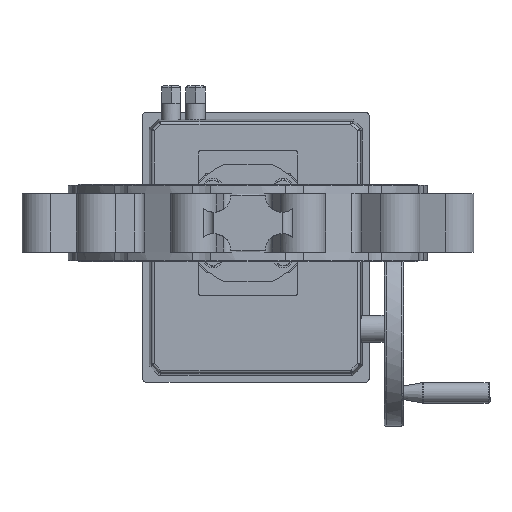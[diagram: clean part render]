
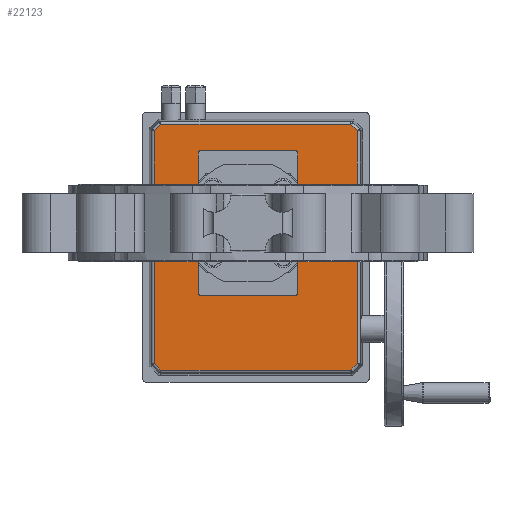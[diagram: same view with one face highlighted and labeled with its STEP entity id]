
A CAD part, front view. The second image highlights one B-rep face of the part: STEP entity #22123.
In plain terms, the highlighted planar face has unit normal (0, -1, 0).
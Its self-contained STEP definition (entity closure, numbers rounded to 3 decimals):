
#427 = CARTESIAN_POINT ( 'NONE',  ( -95.915, -75., 112.484 ) ) ;
#549 = ORIENTED_EDGE ( 'NONE', *, *, #19534, .T. ) ;
#619 = VERTEX_POINT ( 'NONE', #8543 ) ;
#915 = CARTESIAN_POINT ( 'NONE',  ( 144.715, -75., -96.484 ) ) ;
#1093 = LINE ( 'NONE', #10650, #17277 ) ;
#1154 = DIRECTION ( 'NONE',  ( -0.707, 0., 0.707 ) ) ;
#1164 = EDGE_CURVE ( 'NONE', #1862, #17783, #22917, .T. ) ;
#1186 = VERTEX_POINT ( 'NONE', #8536 ) ;
#1370 = CARTESIAN_POINT ( 'NONE',  ( 144.715, -75., 112.484 ) ) ;
#1519 = EDGE_CURVE ( 'NONE', #619, #24510, #1093, .T. ) ;
#1554 = VECTOR ( 'NONE', #23892, 1000. ) ;
#1862 = VERTEX_POINT ( 'NONE', #18922 ) ;
#2134 = VERTEX_POINT ( 'NONE', #11176 ) ;
#2167 = EDGE_CURVE ( 'NONE', #2134, #29530, #23021, .T. ) ;
#2236 = EDGE_CURVE ( 'NONE', #20205, #8529, #24107, .T. ) ;
#2943 = CARTESIAN_POINT ( 'NONE',  ( -94.715, -75., 112.484 ) ) ;
#2980 = LINE ( 'NONE', #10339, #6110 ) ;
#3023 = EDGE_CURVE ( 'NONE', #24510, #18092, #23604, .T. ) ;
#3339 = DIRECTION ( 'NONE',  ( 0.707, 0., 0.707 ) ) ;
#3799 = CARTESIAN_POINT ( 'NONE',  ( 128.6, -75., 128.6 ) ) ;
#3860 = CARTESIAN_POINT ( 'NONE',  ( -75., -75., 48. ) ) ;
#4183 = AXIS2_PLACEMENT_3D ( 'NONE', #25946, #13755, #10775 ) ;
#4338 = CARTESIAN_POINT ( 'NONE',  ( -72., -75., 48. ) ) ;
#4615 = VECTOR ( 'NONE', #19680, 1000. ) ;
#4659 = LINE ( 'NONE', #427, #1554 ) ;
#4754 = CARTESIAN_POINT ( 'NONE',  ( -101.484, -75., 105.715 ) ) ;
#5006 = DIRECTION ( 'NONE',  ( 0., 0., -1. ) ) ;
#5276 = CARTESIAN_POINT ( 'NONE',  ( -101.484, -75., -90.915 ) ) ;
#5318 = EDGE_LOOP ( 'NONE', ( #15625, #18328, #14341, #16789, #549, #14098, #13613, #23326 ) ) ;
#5830 = VERTEX_POINT ( 'NONE', #17710 ) ;
#5989 = CARTESIAN_POINT ( 'NONE',  ( 151.484, -75., -89.715 ) ) ;
#6025 = CARTESIAN_POINT ( 'NONE',  ( 75., -75., 0. ) ) ;
#6110 = VECTOR ( 'NONE', #12708, 1000. ) ;
#6204 = CIRCLE ( 'NONE', #4183, 3. ) ;
#7456 = LINE ( 'NONE', #27142, #30793 ) ;
#7612 = AXIS2_PLACEMENT_3D ( 'NONE', #4338, #13912, #12870 ) ;
#7750 = EDGE_CURVE ( 'NONE', #15002, #619, #26736, .T. ) ;
#8465 = LINE ( 'NONE', #11159, #16154 ) ;
#8529 = VERTEX_POINT ( 'NONE', #22394 ) ;
#8536 = CARTESIAN_POINT ( 'NONE',  ( 151.484, -75., 105.715 ) ) ;
#8543 = CARTESIAN_POINT ( 'NONE',  ( -101.484, -75., -89.715 ) ) ;
#8635 = CARTESIAN_POINT ( 'NONE',  ( 75., -75., -48. ) ) ;
#9616 = CIRCLE ( 'NONE', #27783, 3. ) ;
#10339 = CARTESIAN_POINT ( 'NONE',  ( 0., -75., 51. ) ) ;
#10511 = ORIENTED_EDGE ( 'NONE', *, *, #2236, .F. ) ;
#10554 = CIRCLE ( 'NONE', #30264, 3. ) ;
#10650 = CARTESIAN_POINT ( 'NONE',  ( -95.6, -75., -95.6 ) ) ;
#10754 = CARTESIAN_POINT ( 'NONE',  ( 72., -75., -48. ) ) ;
#10775 = DIRECTION ( 'NONE',  ( 0., 0., 1. ) ) ;
#11007 = CARTESIAN_POINT ( 'NONE',  ( 0., -75., -51. ) ) ;
#11052 = VECTOR ( 'NONE', #17243, 1000. ) ;
#11159 = CARTESIAN_POINT ( 'NONE',  ( 151.484, -75., 0. ) ) ;
#11176 = CARTESIAN_POINT ( 'NONE',  ( -72., -75., -51. ) ) ;
#11664 = ORIENTED_EDGE ( 'NONE', *, *, #16710, .T. ) ;
#11751 = AXIS2_PLACEMENT_3D ( 'NONE', #22357, #15056, #24730 ) ;
#12388 = DIRECTION ( 'NONE',  ( 0.707, 0., -0.707 ) ) ;
#12708 = DIRECTION ( 'NONE',  ( 1., 0., 0. ) ) ;
#12725 = LINE ( 'NONE', #17159, #4615 ) ;
#12870 = DIRECTION ( 'NONE',  ( 0., 0., 1. ) ) ;
#13333 = CARTESIAN_POINT ( 'NONE',  ( -72., -75., -48. ) ) ;
#13566 = ORIENTED_EDGE ( 'NONE', *, *, #23634, .T. ) ;
#13613 = ORIENTED_EDGE ( 'NONE', *, *, #19099, .T. ) ;
#13724 = DIRECTION ( 'NONE',  ( 0., 0., -1. ) ) ;
#13755 = DIRECTION ( 'NONE',  ( 0., 1., 0. ) ) ;
#13912 = DIRECTION ( 'NONE',  ( 0., 1., 0. ) ) ;
#14098 = ORIENTED_EDGE ( 'NONE', *, *, #17424, .T. ) ;
#14169 = ORIENTED_EDGE ( 'NONE', *, *, #16661, .T. ) ;
#14341 = ORIENTED_EDGE ( 'NONE', *, *, #3023, .T. ) ;
#14641 = CIRCLE ( 'NONE', #7612, 3. ) ;
#15002 = VERTEX_POINT ( 'NONE', #4754 ) ;
#15056 = DIRECTION ( 'NONE',  ( 0., 1., 0. ) ) ;
#15399 = DIRECTION ( 'NONE',  ( 0., 0., 1. ) ) ;
#15625 = ORIENTED_EDGE ( 'NONE', *, *, #7750, .T. ) ;
#15711 = DIRECTION ( 'NONE',  ( 0., 0., 1. ) ) ;
#15910 = LINE ( 'NONE', #3799, #16723 ) ;
#16154 = VECTOR ( 'NONE', #15399, 1000. ) ;
#16661 = EDGE_CURVE ( 'NONE', #19802, #5830, #2980, .T. ) ;
#16710 = EDGE_CURVE ( 'NONE', #20205, #19802, #14641, .T. ) ;
#16723 = VECTOR ( 'NONE', #1154, 1000. ) ;
#16789 = ORIENTED_EDGE ( 'NONE', *, *, #18365, .T. ) ;
#17159 = CARTESIAN_POINT ( 'NONE',  ( -102.332, -75., 104.867 ) ) ;
#17243 = DIRECTION ( 'NONE',  ( 0., 0., -1. ) ) ;
#17277 = VECTOR ( 'NONE', #12388, 1000. ) ;
#17424 = EDGE_CURVE ( 'NONE', #1186, #29988, #15910, .T. ) ;
#17702 = DIRECTION ( 'NONE',  ( 0., 1., 0. ) ) ;
#17710 = CARTESIAN_POINT ( 'NONE',  ( 72., -75., 51. ) ) ;
#17783 = VERTEX_POINT ( 'NONE', #8635 ) ;
#18092 = VERTEX_POINT ( 'NONE', #915 ) ;
#18328 = ORIENTED_EDGE ( 'NONE', *, *, #1519, .T. ) ;
#18365 = EDGE_CURVE ( 'NONE', #18092, #18462, #7456, .T. ) ;
#18462 = VERTEX_POINT ( 'NONE', #5989 ) ;
#18701 = CARTESIAN_POINT ( 'NONE',  ( -94.715, -75., -96.484 ) ) ;
#18922 = CARTESIAN_POINT ( 'NONE',  ( 75., -75., 48. ) ) ;
#19099 = EDGE_CURVE ( 'NONE', #29988, #23547, #4659, .T. ) ;
#19224 = EDGE_CURVE ( 'NONE', #17783, #29530, #10554, .T. ) ;
#19393 = ORIENTED_EDGE ( 'NONE', *, *, #2167, .F. ) ;
#19425 = VECTOR ( 'NONE', #20638, 1000. ) ;
#19534 = EDGE_CURVE ( 'NONE', #18462, #1186, #8465, .T. ) ;
#19646 = FACE_BOUND ( 'NONE', #22414, .T. ) ;
#19676 = ORIENTED_EDGE ( 'NONE', *, *, #1164, .T. ) ;
#19680 = DIRECTION ( 'NONE',  ( -0.707, 0., -0.707 ) ) ;
#19802 = VERTEX_POINT ( 'NONE', #27873 ) ;
#19950 = CARTESIAN_POINT ( 'NONE',  ( 72., -75., -51. ) ) ;
#20205 = VERTEX_POINT ( 'NONE', #3860 ) ;
#20281 = PLANE ( 'NONE',  #11751 ) ;
#20638 = DIRECTION ( 'NONE',  ( 1., 0., 0. ) ) ;
#21288 = VECTOR ( 'NONE', #13724, 1000. ) ;
#22123 = ADVANCED_FACE ( 'NONE', ( #25196, #19646 ), #20281, .F. ) ;
#22165 = ORIENTED_EDGE ( 'NONE', *, *, #24251, .T. ) ;
#22357 = CARTESIAN_POINT ( 'NONE',  ( 0., -75., 0. ) ) ;
#22394 = CARTESIAN_POINT ( 'NONE',  ( -75., -75., -48. ) ) ;
#22414 = EDGE_LOOP ( 'NONE', ( #10511, #11664, #14169, #13566, #19676, #25486, #19393, #22165 ) ) ;
#22917 = LINE ( 'NONE', #6025, #21288 ) ;
#23021 = LINE ( 'NONE', #11007, #19425 ) ;
#23326 = ORIENTED_EDGE ( 'NONE', *, *, #27154, .T. ) ;
#23461 = DIRECTION ( 'NONE',  ( 1., 0., 0. ) ) ;
#23487 = VECTOR ( 'NONE', #5006, 1000. ) ;
#23547 = VERTEX_POINT ( 'NONE', #2943 ) ;
#23604 = LINE ( 'NONE', #28667, #24950 ) ;
#23634 = EDGE_CURVE ( 'NONE', #5830, #1862, #6204, .T. ) ;
#23892 = DIRECTION ( 'NONE',  ( -1., 0., 0. ) ) ;
#24107 = LINE ( 'NONE', #24283, #23487 ) ;
#24251 = EDGE_CURVE ( 'NONE', #2134, #8529, #9616, .T. ) ;
#24283 = CARTESIAN_POINT ( 'NONE',  ( -75., -75., 0. ) ) ;
#24510 = VERTEX_POINT ( 'NONE', #18701 ) ;
#24730 = DIRECTION ( 'NONE',  ( 0., 0., 1. ) ) ;
#24837 = DIRECTION ( 'NONE',  ( 0., 0., 1. ) ) ;
#24950 = VECTOR ( 'NONE', #23461, 1000. ) ;
#25196 = FACE_OUTER_BOUND ( 'NONE', #5318, .T. ) ;
#25486 = ORIENTED_EDGE ( 'NONE', *, *, #19224, .T. ) ;
#25946 = CARTESIAN_POINT ( 'NONE',  ( 72., -75., 48. ) ) ;
#26736 = LINE ( 'NONE', #5276, #11052 ) ;
#27142 = CARTESIAN_POINT ( 'NONE',  ( 120.6, -75., -120.6 ) ) ;
#27154 = EDGE_CURVE ( 'NONE', #23547, #15002, #12725, .T. ) ;
#27427 = DIRECTION ( 'NONE',  ( 0., 1., 0. ) ) ;
#27783 = AXIS2_PLACEMENT_3D ( 'NONE', #13333, #27427, #15711 ) ;
#27873 = CARTESIAN_POINT ( 'NONE',  ( -72., -75., 51. ) ) ;
#28667 = CARTESIAN_POINT ( 'NONE',  ( 0., -75., -96.484 ) ) ;
#29530 = VERTEX_POINT ( 'NONE', #19950 ) ;
#29988 = VERTEX_POINT ( 'NONE', #1370 ) ;
#30264 = AXIS2_PLACEMENT_3D ( 'NONE', #10754, #17702, #24837 ) ;
#30793 = VECTOR ( 'NONE', #3339, 1000. ) ;
